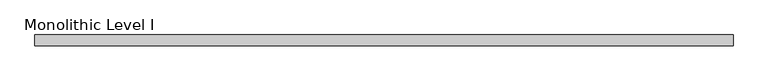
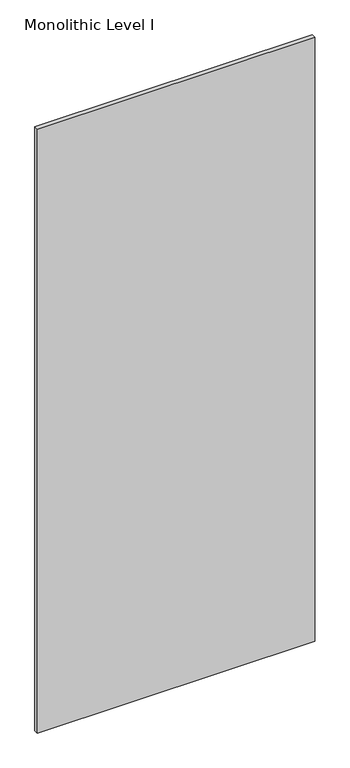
"""IFC4 building model written with IfcOpenShell, lengths in millimetres: proxy geometry, Panel-Fascia-Teknion-Altos-Standard : Monolithic Level I."""

from ifc_helpers import new_model, si_unit, frame, origin, place, context, project, spatial, polyline, outline, extrude, source, transform, mapped, element, save


def monolithic_level_i_c3871bc0(model_context):
    return source(origin(), model_context, "Body", "SweptSolid", [
        extrude(outline(polyline([(624.8300781, 9.525), (624.8300781, -9.525), (-624.8300781, -9.525), (-624.8300781, 9.525), (624.8300781, 9.525)])), frame((0.0, 0.0, 3.175), z_axis=(0.0, 0.0, 1.0), x_axis=(1.0, 0.0, 0.0)), (0.0, 0.0, 1.0), 2877.693),
    ])


if __name__ == "__main__":
    model = new_model("IFC4")
    model_context = context("Model", 3, world=origin())
    ifc_project = project(units=[si_unit("LENGTHUNIT", "METRE", prefix="MILLI")], contexts=[model_context])
    site = spatial("IfcSite", under=ifc_project)
    building = spatial("IfcBuilding", under=site)
    placement = place(None, origin())
    monolithic_level_i_shape = monolithic_level_i_c3871bc0(model_context)
    element("IfcBuildingElementProxy", 1, Name="Panel-Fascia-Teknion-Altos-Standard : Monolithic Level I", ObjectType="Panel-Fascia-Teknion-Altos-Standard : Monolithic Level I", at=placement, inside=building, context=model_context, shape_type="MappedRepresentation", body=[
        mapped(monolithic_level_i_shape, transform((0.0, 0.0, 0.0), x_axis=(1.0, 0.0, 0.0), y_axis=(0.0, 1.0, 0.0), z_axis=(0.0, 0.0, 1.0))),
    ])
    save(model, "model.ifc")
